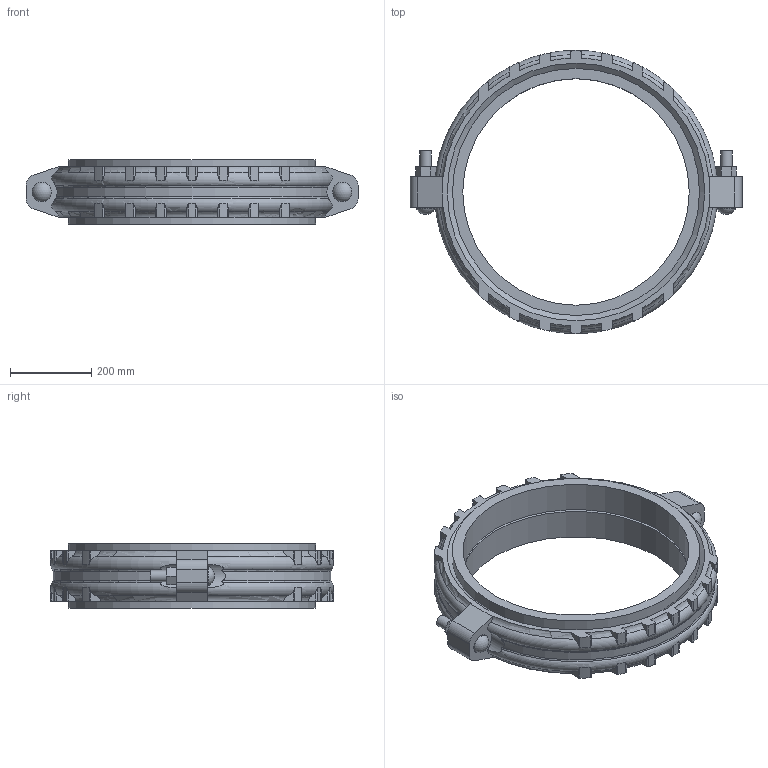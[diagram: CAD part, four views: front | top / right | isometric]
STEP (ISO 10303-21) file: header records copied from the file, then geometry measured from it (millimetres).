
FILE_DESCRIPTION(/* description */ ('VIC COUPLING FLEX STYLE W77 AGS VIC-RING ','CAx-IF Rec.Pracs.---Representation and Presentation of Product Manufacturing Information (PMI)---4.0---2014-10-13'),/* implementation_level */ '2;1');
FILE_NAME(/* name */ 'C:\Users\Vjadhav\AppData\Roaming\Autodesk\ApplicationPlugins\Victaulic.Temp\A52\Victaulic_Vic-Ring_Coupling Flexible_Style W77 (AGR)_24 (600).stp',/* time_stamp */ '2021-12-20T11:05:10+06:00',/* author */ ('Vjadhav'),/* organization */ ('Victaulic'),/* preprocessor_version */ 'ST-DEVELOPER v17.2',/* originating_system */ 'Autodesk Inventor 2019',/* authorisation */ '');
FILE_SCHEMA (('AP242_MANAGED_MODEL_BASED_3D_ENGINEERING_MIM_LF { 1 0 10303 442 1 1 4 }'));
Length unit declared in the file: inch
Products named in the file (3): W77 VR-24.0; W77 VR-24.0_1; W77 VR-24.0_2
Assembly tree (3 placements, depth 2):
  W77 VR-24.0
    W77 VR-24.0_1
    W77 VR-24.0_2  x2
Bounding box: 819.15 x 698.47 x 157.99 mm (x, y, z)
Volume: 17771006.2 mm3; surface area: 1511012.1 mm2
Topology: 3 solids, 5 shells, 253 faces, 729 edges, 494 vertices
Faces by surface type: cylinder 111, plane 98, torus 40, sphere 2, cone 2
Full cylindrical faces by diameter (mm): 28.575 x4, 47.625 x2, 558.8 x2, 590.55 x1, 609.6 x4
Entity records: 10653 total; most frequent: CARTESIAN_POINT 3844, ORIENTED_EDGE 1438, DIRECTION 1275, EDGE_CURVE 719, AXIS2_PLACEMENT_3D 505, VERTEX_POINT 486, EDGE_LOOP 265, LINE 265
